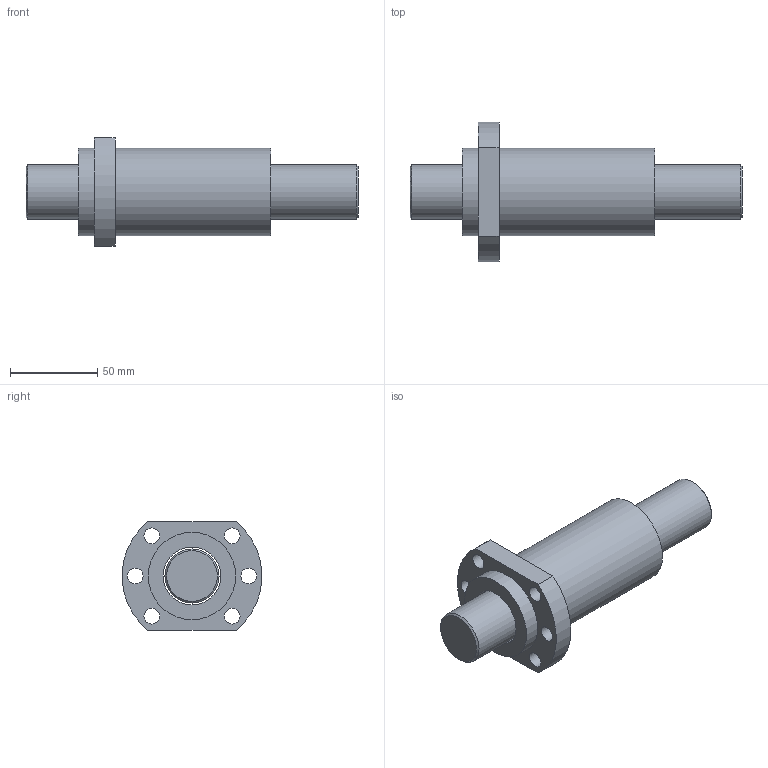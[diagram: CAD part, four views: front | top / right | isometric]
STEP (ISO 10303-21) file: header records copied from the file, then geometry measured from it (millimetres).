
FILE_DESCRIPTION(/* description */ (''),/* implementation_level */ '2;1');
FILE_NAME(/* name */ 'SFA3232-2.8.stp',/* time_stamp */ '2019-04-02T11:59:42+08:00',/* author */ (''),/* organization */ (''),/* preprocessor_version */ 'ST-DEVELOPER v14',/* originating_system */ 'SIEMENS PLM Software NX 8.0',/* authorisation */ '');
FILE_SCHEMA (('AP203_CONFIGURATION_CONTROLLED_3D_DESIGN_OF_MECHANICAL_PARTS_AND_ASSEMBLIES_MIM_LF { 1 0 10303 403 2 1 2}'));
Length unit declared in the file: millimetre
Products named in the file (1): 00251B18CDB0b5je
Bounding box: 190 x 79.74 x 62 mm (x, y, z)
Volume: 289926.8 mm3; surface area: 57981.7 mm2
Topology: 2 solids, 2 shells, 22 faces, 49 edges, 33 vertices
Faces by surface type: cylinder 12, plane 8, cone 2
Full cylindrical faces by diameter (mm): 9 x6, 31 x1, 33 x1, 50 x2
Entity records: 658 total; most frequent: DIRECTION 106, CARTESIAN_POINT 87, ORIENTED_EDGE 68, EDGE_LOOP 50, AXIS2_PLACEMENT_3D 49, FACE_BOUND 44, EDGE_CURVE 34, VERTEX_POINT 30
